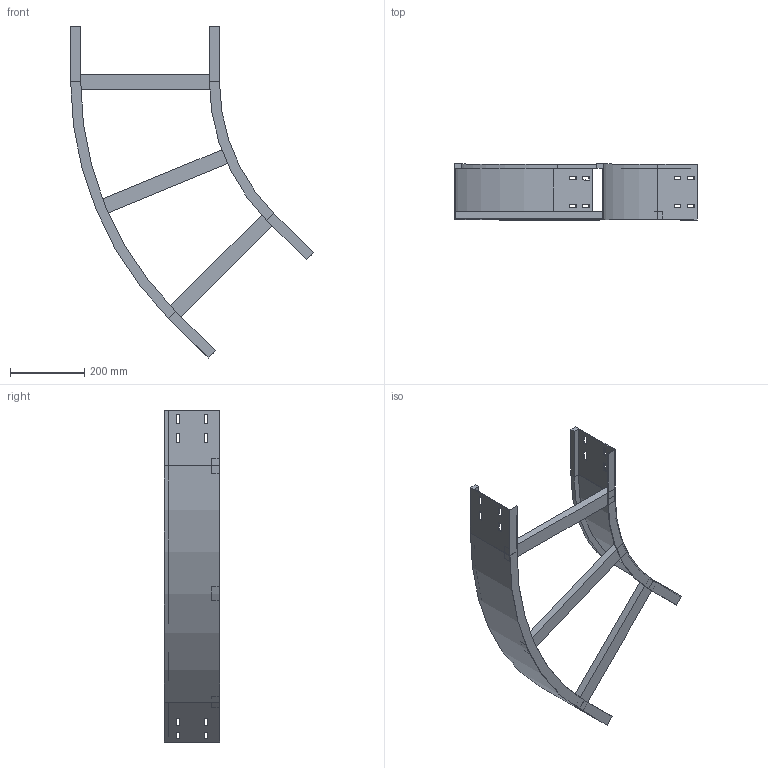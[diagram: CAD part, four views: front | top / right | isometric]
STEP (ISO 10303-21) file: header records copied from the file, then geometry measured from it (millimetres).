
FILE_DESCRIPTION (( 'STEP AP214' ), '1' );
FILE_NAME ('11J5F400.step', '2025-02-21T16:24:10', ( '' ), ( '' ), 'SwSTEP 2.0', 'SolidWorks 2023', '' );
FILE_SCHEMA (( 'AUTOMOTIVE_DESIGN' ));
Length unit declared in the file: millimetre
Products named in the file (4): TRAVERSINO_400; LONGH.ESTERNO 45°_H150_R500+400; LONGH.INTERNO 45°_H150_R500; 11J5F400
Assembly tree (5 placements, depth 2):
  11J5F400
    LONGH.INTERNO 45°_H150_R500
    LONGH.ESTERNO 45°_H150_R500+400
    TRAVERSINO_400  x3
Bounding box: 652.51 x 150 x 892.46 mm (x, y, z)
Volume: 1876240.1 mm3; surface area: 801781.2 mm2
Topology: 5 solids, 5 shells, 134 faces, 340 edges, 216 vertices
Faces by surface type: plane 126, cylinder 8
Entity records: 3821 total; most frequent: CARTESIAN_POINT 646, ORIENTED_EDGE 632, DIRECTION 592, EDGE_CURVE 316, LINE 300, VECTOR 300, VERTEX_POINT 200, EDGE_LOOP 154
